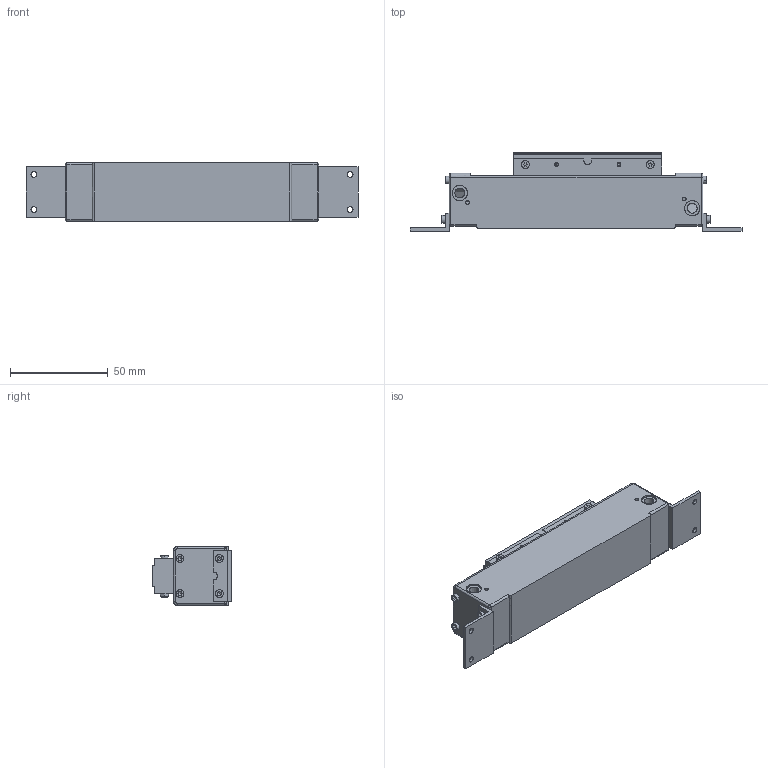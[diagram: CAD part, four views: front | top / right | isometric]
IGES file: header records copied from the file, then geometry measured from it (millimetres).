
Start section: SolidWorks IGES file using analytic representation for surfaces
Global section: file name: C:\Documents and Settings\1EDPI\Bureau\Zied\Pru16\Assemblage3.IGS; native system: SolidWorks 2010; preprocessor: SolidWorks 2010; author: 1EDPI; date: 121106.084745; units: millimetre
Bounding box: 170.25 x 40.11 x 30 mm (x, y, z)
Surface area: 44271.4 mm2 (no closed solid volume)
Topology: 0 solids, 0 shells, 425 faces, 5684 edges, 5640 vertices
Faces by surface type: bspline 223, revolution 202
